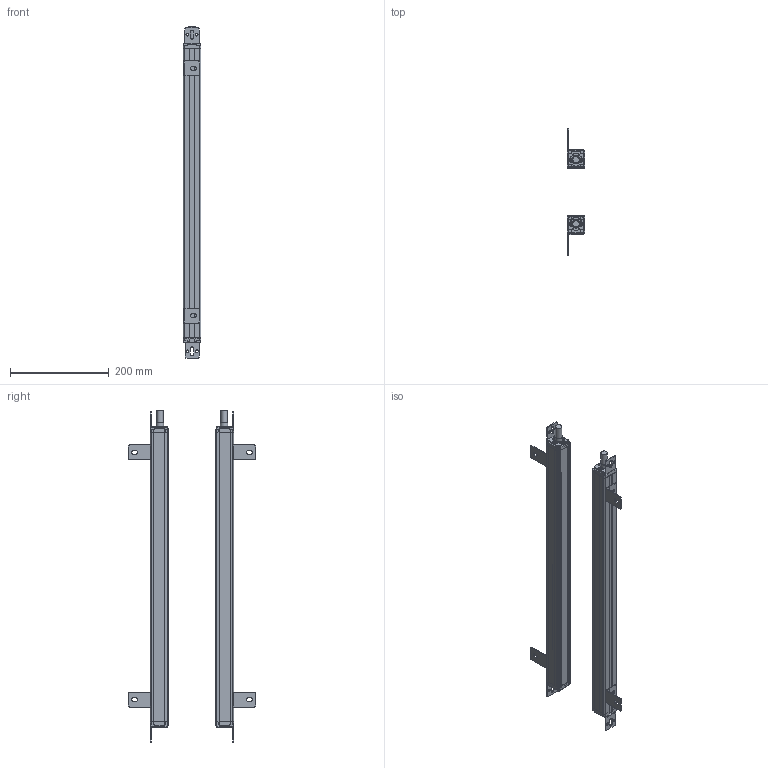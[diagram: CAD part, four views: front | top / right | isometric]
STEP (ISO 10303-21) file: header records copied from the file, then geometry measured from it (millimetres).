
FILE_DESCRIPTION(/* description */ (''),/* implementation_level */ '2;1');
FILE_NAME(/* name */ '2820_35X35_stp.stp',/* time_stamp */ '2023-09-18T16:19:27+08:00',/* author */ (''),/* organization */ (''),/* preprocessor_version */ 'ST-DEVELOPER v16.7',/* originating_system */ 'SIEMENS PLM Software NX 12.0',/* authorisation */ '');
FILE_SCHEMA (('AP203_CONFIGURATION_CONTROLLED_3D_DESIGN_OF_MECHANICAL_PARTS_AND_ASSEMBLIES_MIM_LF { 1 0 10303 403 2 1 2}'));
Length unit declared in the file: millimetre
Products named in the file (1): 2820_35X35_stp_stp
Bounding box: 35.41 x 258.01 x 671.6 mm (x, y, z)
Volume: 611159.7 mm3; surface area: 465521 mm2
Topology: 28 solids, 28 shells, 1182 faces, 3360 edges, 2260 vertices
Faces by surface type: plane 658, cylinder 464, cone 60
Full cylindrical faces by diameter (mm): 3.2 x8, 6 x24, 13 x2, 14.4 x2, 15 x2
Entity records: 39055 total; most frequent: DIRECTION 6832, CARTESIAN_POINT 6745, ORIENTED_EDGE 6612, EDGE_CURVE 3306, AXIS2_PLACEMENT_3D 2347, VERTEX_POINT 2244, LINE 2138, VECTOR 2138
